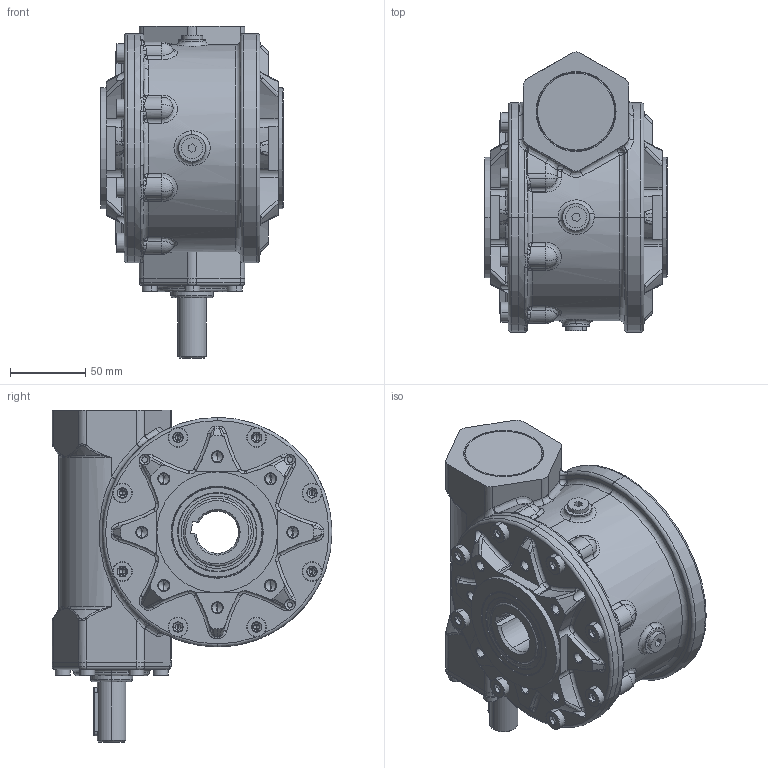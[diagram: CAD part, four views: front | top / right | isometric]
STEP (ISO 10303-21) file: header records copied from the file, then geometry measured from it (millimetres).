
FILE_DESCRIPTION (( 'STEP AP214' ), '1' );
FILE_NAME ('Sestava RT70A-FT.STEP', '2007-07-02T06:31:51', ( '' ), ( '' ), 'SwSTEP 2.0', 'SolidWorks 2004146', '' );
FILE_SCHEMA (( 'AUTOMOTIVE_DESIGN' ));
Products named in the file (17): n029401b_Tìsnìní AS 28x40x7 DIN 3760-NB; skøíò 70_Výchozí; priruba70FT_Výchozí; D472A_Kroužek 52 ÈSN 022931; NBRvíèko_52x7; ZatkaM10x1DIN908_M10x1; N024720_Ložisko SKF 32006 X ÈSN 024720; N024720_Ložisko SKF 30205 ÈSN 024720; n029401b_Tìsnìní AS 45x60x8 DIN 3760-NB; N024630_Ložisko ZKL 6009A ÈSN 024630; Víèko RT70_Výchozí; Šnekové kolo MRT70_Výchozí; D6912_Šroub DIN 6912 - M8x20; Pero zaoblene z obou stran CSN 022562 005N3JPI; Snek_70ART_Výchozí; D6912_Šroub DIN 6912 - M6x16; Sestava RT70A-FT
Assembly tree (31 placements, depth 2):
  Sestava RT70A-FT
    D6912_Šroub DIN 6912 - M6x16  x6
    D6912_Šroub DIN 6912 - M8x20  x8
    Víèko RT70_Výchozí
    skøíò 70_Výchozí
    N024630_Ložisko ZKL 6009A ÈSN 024630  x2
    D472A_Kroužek 52 ÈSN 022931
    Šnekové kolo MRT70_Výchozí
    n029401b_Tìsnìní AS 45x60x8 DIN 3760-NB  x2
    N024720_Ložisko SKF 30205 ÈSN 024720
    Snek_70ART_Výchozí
    ZatkaM10x1DIN908_M10x1  x2
    Pero zaoblene z obou stran CSN 022562 005N3JPI
    n029401b_Tìsnìní AS 28x40x7 DIN 3760-NB
    NBRvíèko_52x7
    N024720_Ložisko SKF 32006 X ÈSN 024720
    priruba70FT_Výchozí
Bounding box: 121.1 x 185.49 x 220 mm (x, y, z)
Volume: 1407260.6 mm3; surface area: 405383.6 mm2
Topology: 31 solids, 31 shells, 2747 faces, 6790 edges, 3838 vertices
Faces by surface type: cylinder 662, torus 587, cone 499, plane 483, bspline 386, sphere 130
Entity records: 263931 total; most frequent: CARTESIAN_POINT 214057, ORIENTED_EDGE 10514, DIRECTION 10246, EDGE_CURVE 5257, AXIS2_PLACEMENT_3D 4590, VERTEX_POINT 3105, CIRCLE 2784, EDGE_LOOP 2314
